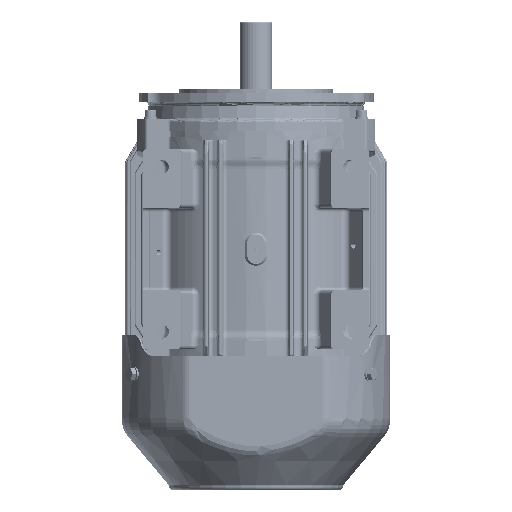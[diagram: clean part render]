
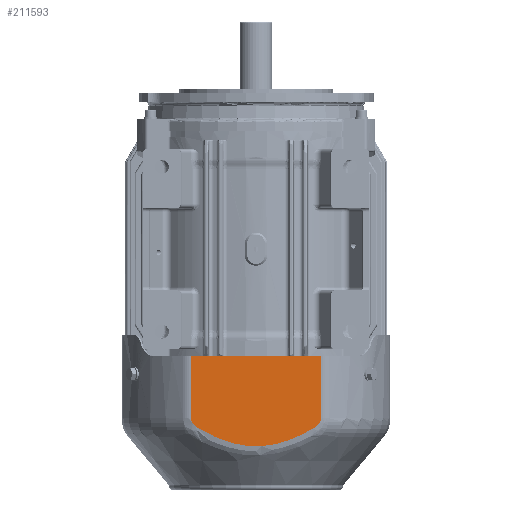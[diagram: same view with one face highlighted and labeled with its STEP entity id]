
A CAD part, front view. The second image highlights one B-rep face of the part: STEP entity #211593.
In plain terms, the highlighted planar face has unit normal (0, -1, 0).
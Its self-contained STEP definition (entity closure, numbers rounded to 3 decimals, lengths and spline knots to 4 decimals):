
#937 = CARTESIAN_POINT ( 'NONE',  ( -0.4345, -3.8583, -6.5593 ) ) ;
#2653 = CARTESIAN_POINT ( 'NONE',  ( -0.3485, -3.8583, -6.5711 ) ) ;
#3062 = EDGE_CURVE ( 'NONE', #101331, #57327, #60419, .T. ) ;
#3522 = CARTESIAN_POINT ( 'NONE',  ( 1.5643, -3.8583, -6.183 ) ) ;
#3973 = CARTESIAN_POINT ( 'NONE',  ( -2.1739, -3.8583, -5.6634 ) ) ;
#4826 = CARTESIAN_POINT ( 'NONE',  ( -2.016, -3.8583, -5.9255 ) ) ;
#16512 = CARTESIAN_POINT ( 'NONE',  ( 2.1739, -3.8583, -5.6457 ) ) ;
#16636 = VERTEX_POINT ( 'NONE', #211479 ) ;
#18069 = DIRECTION ( 'NONE',  ( 1., 0., 0. ) ) ;
#19828 = CARTESIAN_POINT ( 'NONE',  ( -4.948, -3.8583, -3.563 ) ) ;
#21629 = CARTESIAN_POINT ( 'NONE',  ( 2.1739, -3.8583, -3.563 ) ) ;
#23818 = CARTESIAN_POINT ( 'NONE',  ( -0.6911, -3.8583, -6.5138 ) ) ;
#35829 = CARTESIAN_POINT ( 'NONE',  ( 2.1739, -3.8583, -5.6457 ) ) ;
#36746 = CARTESIAN_POINT ( 'NONE',  ( 1.9433, -3.8583, -5.9747 ) ) ;
#40619 = CARTESIAN_POINT ( 'NONE',  ( 0.3382, -3.8583, -6.577 ) ) ;
#41100 = EDGE_CURVE ( 'NONE', #16636, #101331, #114030, .T. ) ;
#41503 = CARTESIAN_POINT ( 'NONE',  ( 0.9292, -3.8583, -6.4439 ) ) ;
#42360 = ORIENTED_EDGE ( 'NONE', *, *, #65247, .T. ) ;
#43224 = CARTESIAN_POINT ( 'NONE',  ( -0.1765, -3.8583, -6.5879 ) ) ;
#44539 = CARTESIAN_POINT ( 'NONE',  ( -2.1657, -3.8583, -5.7151 ) ) ;
#46400 = VECTOR ( 'NONE', #164743, 39.3701 ) ;
#51128 = FACE_OUTER_BOUND ( 'NONE', #125968, .T. ) ;
#54401 = VERTEX_POINT ( 'NONE', #120810 ) ;
#56183 = CARTESIAN_POINT ( 'NONE',  ( 2.1229, -3.8583, -5.8114 ) ) ;
#57327 = VERTEX_POINT ( 'NONE', #21629 ) ;
#57976 = CARTESIAN_POINT ( 'NONE',  ( 2.0425, -3.8583, -5.9035 ) ) ;
#60419 = LINE ( 'NONE', #69561, #95014 ) ;
#60962 = CARTESIAN_POINT ( 'NONE',  ( -1.3361, -3.8583, -6.2925 ) ) ;
#61841 = CARTESIAN_POINT ( 'NONE',  ( 1.6411, -3.8583, -6.1438 ) ) ;
#64909 = CARTESIAN_POINT ( 'NONE',  ( -2.1231, -3.8583, -5.8111 ) ) ;
#65247 = EDGE_CURVE ( 'NONE', #74950, #16636, #223264, .T. ) ;
#68608 = CARTESIAN_POINT ( 'NONE',  ( -4.948, -3.8583, -8.0512 ) ) ;
#69561 = CARTESIAN_POINT ( 'NONE',  ( 2.1739, -3.8583, -8.0512 ) ) ;
#74950 = VERTEX_POINT ( 'NONE', #154489 ) ;
#79135 = CARTESIAN_POINT ( 'NONE',  ( 2.08, -3.8583, -5.8667 ) ) ;
#83822 = CARTESIAN_POINT ( 'NONE',  ( 0.5947, -3.8583, -6.5306 ) ) ;
#84673 = CARTESIAN_POINT ( 'NONE',  ( -1.9433, -3.8583, -5.9747 ) ) ;
#85131 = CARTESIAN_POINT ( 'NONE',  ( -2.1132, -3.8583, -5.8257 ) ) ;
#85999 = CARTESIAN_POINT ( 'NONE',  ( -2.1406, -3.8583, -5.7807 ) ) ;
#88012 = ORIENTED_EDGE ( 'NONE', *, *, #3062, .T. ) ;
#88596 = CARTESIAN_POINT ( 'NONE',  ( -2.1739, -3.8583, -5.6457 ) ) ;
#89455 = CARTESIAN_POINT ( 'NONE',  ( -1.9584, -3.8583, -5.9657 ) ) ;
#92880 = CARTESIAN_POINT ( 'NONE',  ( -1.9433, -3.8583, -5.9747 ) ) ;
#95014 = VECTOR ( 'NONE', #111786, 39.3701 ) ;
#95225 = CARTESIAN_POINT ( 'NONE',  ( -2.1739, -3.8583, -3.563 ) ) ;
#98496 = CARTESIAN_POINT ( 'NONE',  ( 2.0554, -3.8583, -5.8917 ) ) ;
#101331 = VERTEX_POINT ( 'NONE', #35829 ) ;
#102332 = CARTESIAN_POINT ( 'NONE',  ( 1.9433, -3.8583, -5.9747 ) ) ;
#105257 = EDGE_CURVE ( 'NONE', #54401, #74950, #139946, .T. ) ;
#111786 = DIRECTION ( 'NONE',  ( 0., 0., 1. ) ) ;
#113273 = ORIENTED_EDGE ( 'NONE', *, *, #41100, .T. ) ;
#114030 = B_SPLINE_CURVE_WITH_KNOTS ( 'NONE', 3,
 ( #36746, #143553, #219449, #57976, #98496, #79135, #196482, #137391, #56183, #117055, #118801, #116177, #260104, #220302, #257464, #16512 ),
 .UNSPECIFIED., .F., .F.,
 ( 4, 2, 2, 2, 2, 2, 2, 4 ),
 ( 0., 0.0027, 0.004, 0.0053, 0.0066, 0.008, 0.0093, 0.0106 ),
 .UNSPECIFIED. ) ;
#115744 = LINE ( 'NONE', #161257, #46400 ) ;
#115769 = DIRECTION ( 'NONE',  ( 0., 0., 1. ) ) ;
#116177 = CARTESIAN_POINT ( 'NONE',  ( 2.1607, -3.8583, -5.7323 ) ) ;
#117055 = CARTESIAN_POINT ( 'NONE',  ( 2.1404, -3.8583, -5.7811 ) ) ;
#118801 = CARTESIAN_POINT ( 'NONE',  ( 2.1482, -3.8583, -5.7651 ) ) ;
#120810 = CARTESIAN_POINT ( 'NONE',  ( -2.1739, -3.8583, -5.6457 ) ) ;
#122635 = CARTESIAN_POINT ( 'NONE',  ( 1.3315, -3.8583, -6.2946 ) ) ;
#123512 = CARTESIAN_POINT ( 'NONE',  ( -1.179, -3.8583, -6.3584 ) ) ;
#125682 = CARTESIAN_POINT ( 'NONE',  ( -2.1608, -3.8583, -5.732 ) ) ;
#125968 = EDGE_LOOP ( 'NONE', ( #187095, #240000, #207166, #42360, #113273, #88012 ) ) ;
#126965 = EDGE_CURVE ( 'NONE', #144795, #54401, #115744, .T. ) ;
#128524 = DIRECTION ( 'NONE',  ( 0., 1., 0. ) ) ;
#137391 = CARTESIAN_POINT ( 'NONE',  ( 2.1131, -3.8583, -5.8258 ) ) ;
#139946 = B_SPLINE_CURVE_WITH_KNOTS ( 'NONE', 3,
 ( #88596, #3973, #165432, #44539, #125682, #206900, #85999, #64909, #85131, #166303, #246650, #4826, #186576, #227160, #89455, #92880 ),
 .UNSPECIFIED., .F., .F.,
 ( 4, 2, 2, 2, 2, 2, 2, 4 ),
 ( 0., 0.0013, 0.0027, 0.004, 0.0053, 0.008, 0.0093, 0.0106 ),
 .UNSPECIFIED. ) ;
#143553 = CARTESIAN_POINT ( 'NONE',  ( 1.9735, -3.8583, -5.9568 ) ) ;
#144795 = VERTEX_POINT ( 'NONE', #95225 ) ;
#154489 = CARTESIAN_POINT ( 'NONE',  ( -1.9433, -3.8583, -5.9747 ) ) ;
#161257 = CARTESIAN_POINT ( 'NONE',  ( -2.1739, -3.8583, -8.0512 ) ) ;
#162392 = CARTESIAN_POINT ( 'NONE',  ( -1.644, -3.8583, -6.1447 ) ) ;
#163263 = CARTESIAN_POINT ( 'NONE',  ( -0.3055, -3.8583, -6.576 ) ) ;
#164743 = DIRECTION ( 'NONE',  ( 0., 0., -1. ) ) ;
#165432 = CARTESIAN_POINT ( 'NONE',  ( -2.1722, -3.8583, -5.6808 ) ) ;
#166303 = CARTESIAN_POINT ( 'NONE',  ( -2.0809, -3.8583, -5.8674 ) ) ;
#181811 = CARTESIAN_POINT ( 'NONE',  ( 0.6795, -3.8583, -6.5119 ) ) ;
#184391 = CARTESIAN_POINT ( 'NONE',  ( -0.0906, -3.8583, -6.5919 ) ) ;
#185232 = CARTESIAN_POINT ( 'NONE',  ( -0.8565, -3.8583, -6.4691 ) ) ;
#186576 = CARTESIAN_POINT ( 'NONE',  ( -2.002, -3.8583, -5.9361 ) ) ;
#187095 = ORIENTED_EDGE ( 'NONE', *, *, #189303, .F. ) ;
#189094 = AXIS2_PLACEMENT_3D ( 'NONE', #68608, #128524, #115769 ) ;
#189303 = EDGE_CURVE ( 'NONE', #144795, #57327, #212336, .T. ) ;
#189438 = PLANE ( 'NONE',  #189094 ) ;
#196482 = CARTESIAN_POINT ( 'NONE',  ( 2.0917, -3.8583, -5.8534 ) ) ;
#202098 = CARTESIAN_POINT ( 'NONE',  ( 0.7216, -3.8583, -6.5017 ) ) ;
#202968 = CARTESIAN_POINT ( 'NONE',  ( 1.7934, -3.8583, -6.0617 ) ) ;
#203838 = CARTESIAN_POINT ( 'NONE',  ( 0.8469, -3.8583, -6.4689 ) ) ;
#204698 = CARTESIAN_POINT ( 'NONE',  ( -1.7949, -3.8583, -6.0628 ) ) ;
#206900 = CARTESIAN_POINT ( 'NONE',  ( -2.1482, -3.8583, -5.765 ) ) ;
#207166 = ORIENTED_EDGE ( 'NONE', *, *, #105257, .T. ) ;
#211479 = CARTESIAN_POINT ( 'NONE',  ( 1.9433, -3.8583, -5.9747 ) ) ;
#211593 = ADVANCED_FACE ( 'NONE', ( #51128 ), #189438, .F. ) ;
#212336 = LINE ( 'NONE', #19828, #253381 ) ;
#219449 = CARTESIAN_POINT ( 'NONE',  ( 2.0023, -3.8583, -5.9369 ) ) ;
#220302 = CARTESIAN_POINT ( 'NONE',  ( 2.1721, -3.8583, -5.6811 ) ) ;
#222420 = CARTESIAN_POINT ( 'NONE',  ( 1.1731, -3.8583, -6.3608 ) ) ;
#223264 = B_SPLINE_CURVE_WITH_KNOTS ( 'NONE', 3,
 ( #84673, #204698, #162392, #60962, #123512, #185232, #23818, #245331, #937, #2653, #163263, #43224, #184391, #225852, #40619, #242739, #83822, #181811, #202098, #203838, #41503, #222420, #122635, #3522, #61841, #202968, #223269, #102332 ),
 .UNSPECIFIED., .F., .F.,
 ( 4, 2, 2, 2, 2, 2, 2, 2, 2, 2, 2, 2, 2, 4 ),
 ( 0., 0.013, 0.026, 0.0389, 0.0422, 0.0454, 0.0519, 0.0649, 0.0681, 0.0714, 0.0779, 0.0908, 0.0973, 0.1038 ),
 .UNSPECIFIED. ) ;
#223269 = CARTESIAN_POINT ( 'NONE',  ( 1.8688, -3.8583, -6.0189 ) ) ;
#225852 = CARTESIAN_POINT ( 'NONE',  ( 0.1668, -3.8583, -6.5924 ) ) ;
#227160 = CARTESIAN_POINT ( 'NONE',  ( -1.9732, -3.8583, -5.9562 ) ) ;
#240000 = ORIENTED_EDGE ( 'NONE', *, *, #126965, .T. ) ;
#242739 = CARTESIAN_POINT ( 'NONE',  ( 0.5519, -3.8583, -6.5391 ) ) ;
#245331 = CARTESIAN_POINT ( 'NONE',  ( -0.4776, -3.8583, -6.5524 ) ) ;
#246650 = CARTESIAN_POINT ( 'NONE',  ( -2.0563, -3.8583, -5.892 ) ) ;
#253381 = VECTOR ( 'NONE', #18069, 39.3701 ) ;
#257464 = CARTESIAN_POINT ( 'NONE',  ( 2.1739, -3.8583, -5.6634 ) ) ;
#260104 = CARTESIAN_POINT ( 'NONE',  ( 2.1655, -3.8583, -5.7155 ) ) ;
